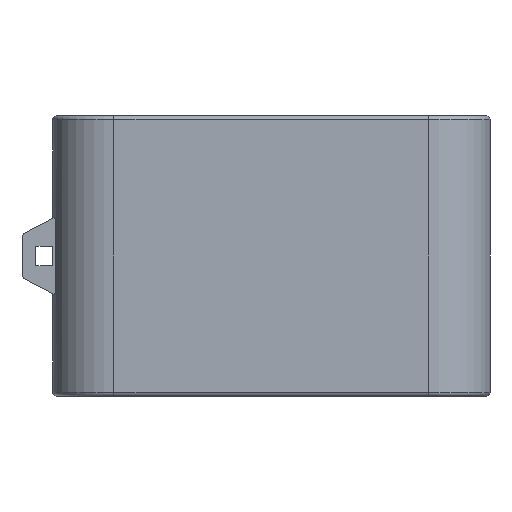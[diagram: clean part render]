
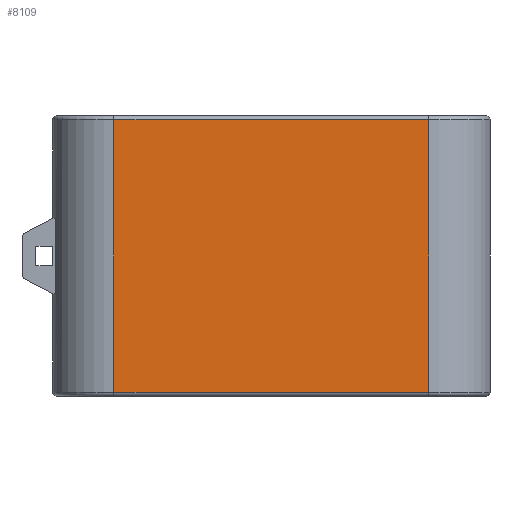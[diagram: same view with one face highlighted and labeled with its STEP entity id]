
A CAD part, front view. The second image highlights one B-rep face of the part: STEP entity #8109.
In plain terms, the highlighted planar face has unit normal (0, -1, 0).
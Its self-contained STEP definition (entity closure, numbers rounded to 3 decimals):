
#137 = DIRECTION ( 'NONE',  ( 0., -1., 0. ) ) ;
#189 = VERTEX_POINT ( 'NONE', #3522 ) ;
#1255 = CARTESIAN_POINT ( 'NONE',  ( 20.516, -7.5, 17.75 ) ) ;
#1279 = VERTEX_POINT ( 'NONE', #3599 ) ;
#1877 = DIRECTION ( 'NONE',  ( 1., 0., 0. ) ) ;
#2189 = ORIENTED_EDGE ( 'NONE', *, *, #6277, .T. ) ;
#2267 = LINE ( 'NONE', #2447, #5107 ) ;
#2447 = CARTESIAN_POINT ( 'NONE',  ( -20.516, -7.5, 17.75 ) ) ;
#2456 = CARTESIAN_POINT ( 'NONE',  ( -20.516, -7.5, 17.75 ) ) ;
#2485 = VECTOR ( 'NONE', #6397, 1000. ) ;
#3051 = CARTESIAN_POINT ( 'NONE',  ( 20.516, -7.5, -18.25 ) ) ;
#3228 = LINE ( 'NONE', #7099, #6348 ) ;
#3333 = CARTESIAN_POINT ( 'NONE',  ( -20.516, -7.5, -18.25 ) ) ;
#3421 = LINE ( 'NONE', #5864, #7136 ) ;
#3522 = CARTESIAN_POINT ( 'NONE',  ( 20.516, -7.5, -17.75 ) ) ;
#3599 = CARTESIAN_POINT ( 'NONE',  ( -20.516, -7.5, -17.75 ) ) ;
#3616 = EDGE_CURVE ( 'NONE', #1279, #5339, #3228, .T. ) ;
#3891 = VERTEX_POINT ( 'NONE', #1255 ) ;
#4266 = LINE ( 'NONE', #3051, #2485 ) ;
#4444 = DIRECTION ( 'NONE',  ( -1., 0., 0. ) ) ;
#4509 = AXIS2_PLACEMENT_3D ( 'NONE', #3333, #137, #4716 ) ;
#4716 = DIRECTION ( 'NONE',  ( 0., 0., -1. ) ) ;
#4805 = FACE_OUTER_BOUND ( 'NONE', #4853, .T. ) ;
#4853 = EDGE_LOOP ( 'NONE', ( #7825, #6076, #2189, #7051 ) ) ;
#5107 = VECTOR ( 'NONE', #4444, 1000. ) ;
#5339 = VERTEX_POINT ( 'NONE', #2456 ) ;
#5864 = CARTESIAN_POINT ( 'NONE',  ( -20.516, -7.5, -17.75 ) ) ;
#6076 = ORIENTED_EDGE ( 'NONE', *, *, #6394, .T. ) ;
#6277 = EDGE_CURVE ( 'NONE', #189, #3891, #4266, .T. ) ;
#6313 = EDGE_CURVE ( 'NONE', #3891, #5339, #2267, .T. ) ;
#6348 = VECTOR ( 'NONE', #7067, 1000. ) ;
#6394 = EDGE_CURVE ( 'NONE', #1279, #189, #3421, .T. ) ;
#6397 = DIRECTION ( 'NONE',  ( 0., 0., 1. ) ) ;
#6669 = PLANE ( 'NONE',  #4509 ) ;
#7051 = ORIENTED_EDGE ( 'NONE', *, *, #6313, .T. ) ;
#7067 = DIRECTION ( 'NONE',  ( 0., 0., 1. ) ) ;
#7099 = CARTESIAN_POINT ( 'NONE',  ( -20.516, -7.5, -18.25 ) ) ;
#7136 = VECTOR ( 'NONE', #1877, 1000. ) ;
#7825 = ORIENTED_EDGE ( 'NONE', *, *, #3616, .F. ) ;
#8109 = ADVANCED_FACE ( 'NONE', ( #4805 ), #6669, .T. ) ;
